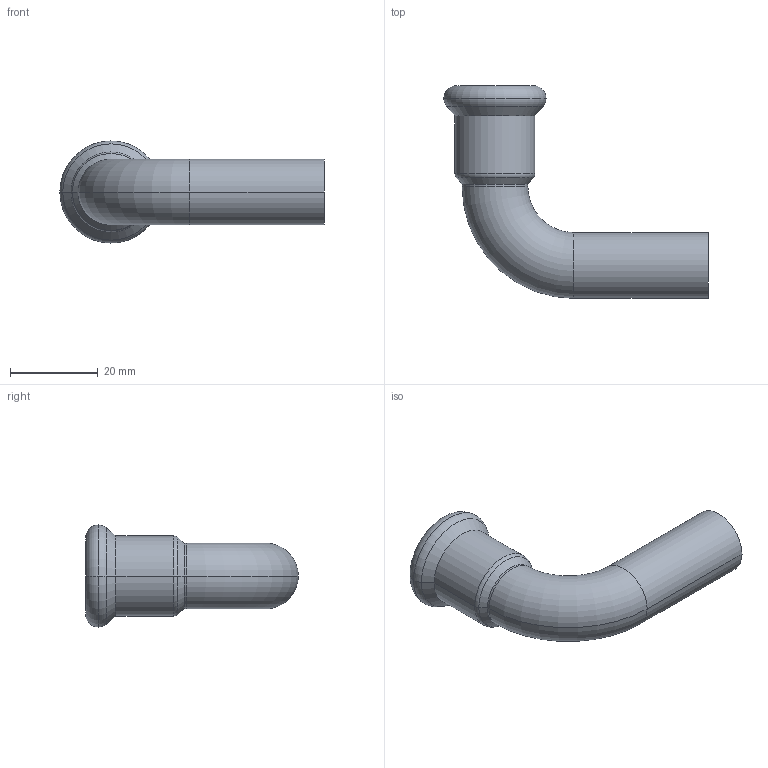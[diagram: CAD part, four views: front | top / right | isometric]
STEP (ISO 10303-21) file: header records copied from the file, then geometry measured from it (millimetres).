
FILE_DESCRIPTION(('CoCreate Modeling STEP Export'),'2;1');
FILE_NAME('C1411 15x15.stp','2014-11-07T16:52:10',(''),(''),'CoCreate Modeling STEP processor for AP214 (Solid Model)','CoCreate Modeling 17.00A 17-Jun-2010 (C) Parametric Technology GmbH','');
FILE_SCHEMA(('AUTOMOTIVE_DESIGN { 1 0 10303 214 1 1 1 1 }'));
Length unit declared in the file: millimetre
Products named in the file (2): C1411_15x15
Assembly tree (1 placements, depth 2):
  C1411_15x15
    C1411_15x15
Bounding box: 60.25 x 48.5 x 23.3 mm (x, y, z)
Volume: 5669.2 mm3; surface area: 7960.4 mm2
Topology: 1 solids, 1 shells, 32 faces, 68 edges, 40 vertices
Faces by surface type: cylinder 14, torus 10, plane 4, cone 4
Entity records: 748 total; most frequent: ORIENTED_EDGE 136, DIRECTION 116, CARTESIAN_POINT 107, EDGE_CURVE 68, AXIS2_PLACEMENT_3D 49, VERTEX_POINT 40, EDGE_LOOP 36, FACE_OUTER_BOUND 32
